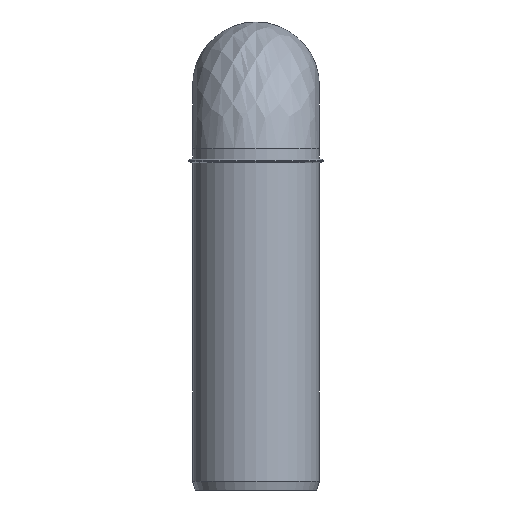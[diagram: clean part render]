
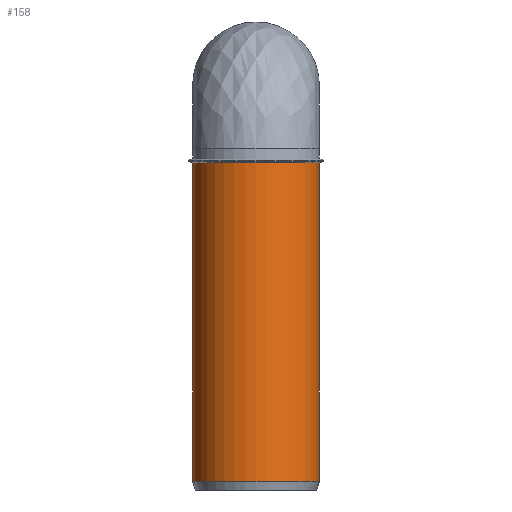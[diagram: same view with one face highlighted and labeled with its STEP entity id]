
A CAD part, left-side view. The second image highlights one B-rep face of the part: STEP entity #158.
In plain terms, the highlighted cylindrical face has radius 25.075 mm (diameter 50.15 mm), a full revolution.
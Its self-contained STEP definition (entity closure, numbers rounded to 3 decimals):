
#23=CYLINDRICAL_SURFACE($,#176,25.075);
#29=FACE_BOUND($,#56,.T.);
#43=FACE_OUTER_BOUND($,#55,.T.);
#55=EDGE_LOOP($,(#118));
#56=EDGE_LOOP($,(#119));
#78=CIRCLE($,#174,25.075);
#80=CIRCLE($,#177,25.075);
#91=VERTEX_POINT($,#258);
#93=VERTEX_POINT($,#263);
#103=EDGE_CURVE($,#91,#91,#78,.T.);
#105=EDGE_CURVE($,#93,#93,#80,.T.);
#118=ORIENTED_EDGE($,*,*,#105,.T.);
#119=ORIENTED_EDGE($,*,*,#103,.F.);
#158=ADVANCED_FACE($,(#43,#29),#23,.T.);
#174=AXIS2_PLACEMENT_3D($,#259,#204,#205);
#176=AXIS2_PLACEMENT_3D($,#262,#208,#209);
#177=AXIS2_PLACEMENT_3D($,#264,#210,#211);
#204=DIRECTION('center_axis',(0.,0.,-1.));
#205=DIRECTION('ref_axis',(-1.,0.,0.));
#208=DIRECTION('center_axis',(0.,0.,1.));
#209=DIRECTION('ref_axis',(-1.,0.,0.));
#210=DIRECTION('center_axis',(0.,0.,-1.));
#211=DIRECTION('ref_axis',(-1.,0.,0.));
#258=CARTESIAN_POINT('',(25.075,0.,3.5));
#259=CARTESIAN_POINT('Origin',(0.,0.,3.5));
#262=CARTESIAN_POINT('Origin',(0.,0.,0.));
#263=CARTESIAN_POINT('',(-25.075,0.,129.47));
#264=CARTESIAN_POINT('Origin',(0.,0.,129.47));
